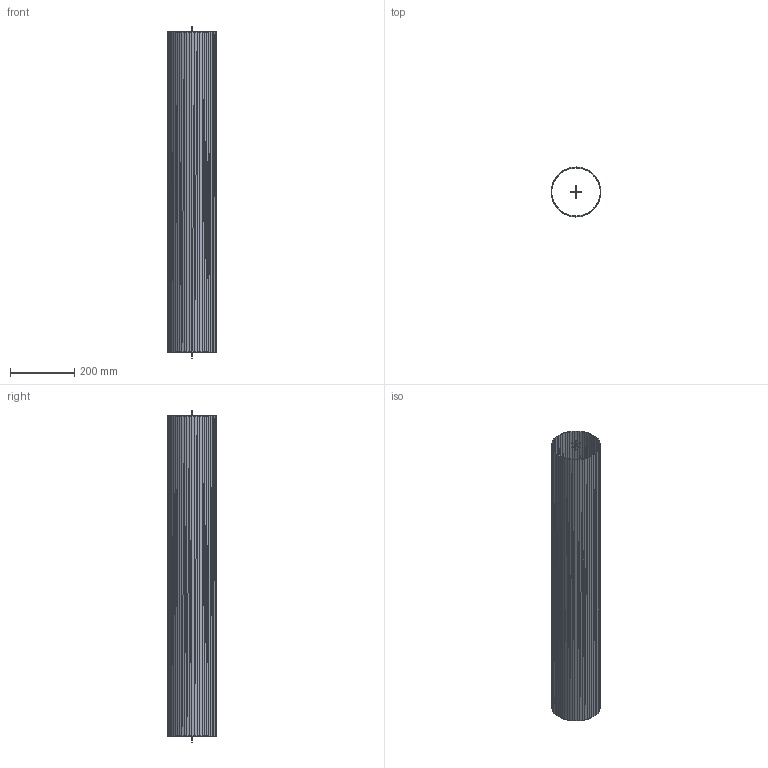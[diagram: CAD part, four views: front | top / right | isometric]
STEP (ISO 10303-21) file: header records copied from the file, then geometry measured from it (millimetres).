
FILE_DESCRIPTION(('FreeCAD Model'),'2;1');
FILE_NAME('Open CASCADE Shape Model','2024-04-12T13:48:11',('Author'),( ''),'Open CASCADE STEP processor 7.6','FreeCAD','Unknown');
FILE_SCHEMA(('AUTOMOTIVE_DESIGN { 1 0 10303 214 1 1 1 1 }'));
Length unit declared in the file: millimetre
Products named in the file (4): Unnamed; Tube_002 (Solid); _Cross_b_002 (Solid); _Cross_f_002 (Solid)
Assembly tree (3 placements, depth 2):
  Unnamed
    Tube_002 (Solid)
    _Cross_b_002 (Solid)
    _Cross_f_002 (Solid)
Bounding box: 154.5 x 154.5 x 1036.42 mm (x, y, z)
Volume: 862170.9 mm3; surface area: 961125.5 mm2
Topology: 3 solids, 3 shells, 4381 faces, 6895 edges, 2520 vertices
Faces by surface type: plane 4381
Entity records: 88465 total; most frequent: DIRECTION 15665, CARTESIAN_POINT 13800, ORIENTED_EDGE 13790, EDGE_CURVE 6895, LINE 6895, VECTOR 6895, AXIS2_PLACEMENT_3D 4385, FACE_BOUND 4383
